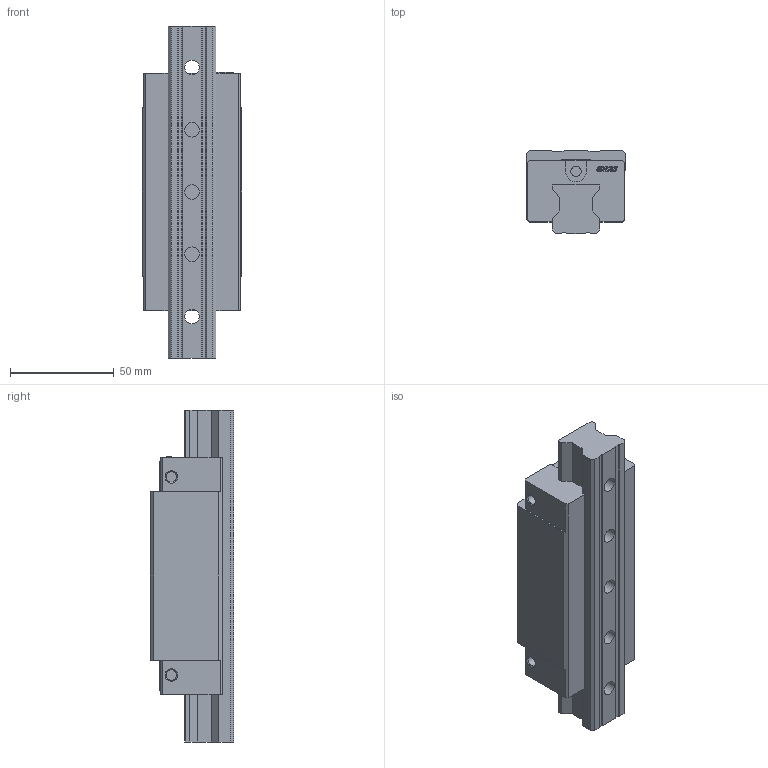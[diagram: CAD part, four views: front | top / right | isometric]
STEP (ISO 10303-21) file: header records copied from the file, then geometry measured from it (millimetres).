
FILE_DESCRIPTION(/* description */ (''),/* implementation_level */ '2;1');
FILE_NAME(/* name */ 'SRH25HA.stp',/* time_stamp */ '2022-01-22T15:13:58+08:00',/* author */ (''),/* organization */ (''),/* preprocessor_version */ 'ST-DEVELOPER v15',/* originating_system */ 'SIEMENS PLM Software NX 8.5',/* authorisation */ '');
FILE_SCHEMA (('CONFIG_CONTROL_DESIGN'));
Length unit declared in the file: millimetre
Products named in the file (1): _model1
Bounding box: 48 x 40 x 160 mm (x, y, z)
Volume: 204446.7 mm3; surface area: 32603.1 mm2
Topology: 1 solids, 1 shells, 246 faces, 715 edges, 494 vertices
Faces by surface type: plane 129, extrusion 78, cylinder 24, cone 15
Full cylindrical faces by diameter (mm): 5 x12, 7 x5, 11 x5
Entity records: 8608 total; most frequent: CARTESIAN_POINT 2395, ORIENTED_EDGE 1340, DIRECTION 1034, EDGE_CURVE 670, VERTEX_POINT 486, VECTOR 436, LINE 358, EDGE_LOOP 310
